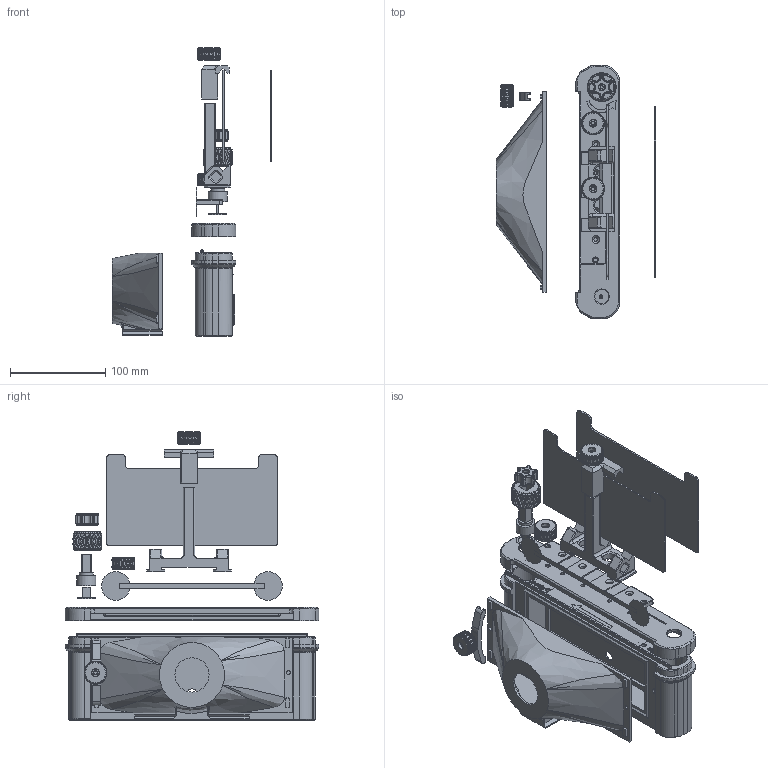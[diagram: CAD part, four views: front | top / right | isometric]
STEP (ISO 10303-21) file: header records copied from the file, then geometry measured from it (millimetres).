
FILE_DESCRIPTION(/* description */ (''),/* implementation_level */ '2;1');
FILE_NAME(/* name */ 'C:/Users/mcjor/Documents/3D objects/6x17 Camera/6x17/v8/v8.stp',/* time_stamp */ '2024-03-17T22:56:21+01:00',/* author */ (''),/* organization */ (''),/* preprocessor_version */ 'ST-DEVELOPER v15.2',/* originating_system */ 'Autodesk Translator Framework v2.0.0.5431',/* authorisation */ '');
FILE_SCHEMA (('AUTOMOTIVE_DESIGN { 1 0 10303 214 3 1 1 }'));
Products named in the file (1): v8
Bounding box: 168.06 x 267 x 303.05 mm (x, y, z)
Volume: 674519.3 mm3; surface area: 335030 mm2
Topology: 17 solids, 18 shells, 3132 faces, 7683 edges, 4671 vertices
Faces by surface type: plane 1883, cylinder 517, torus 344, bspline 260, cone 121, sphere 7
Full cylindrical faces by diameter (mm): 0.039 x1, 1 x28, 3.4 x1, 3.5 x3, 3.6 x2, 3.9 x8, 4 x6, 4.039 x6, 4.6 x3, 6.4 x1, 7.7 x3, 10 x1, 14 x3, 14.5 x1, 15 x2, 15.1 x1, 19.2 x1, 20 x1, 21.2 x2, 27.15 x2, 36 x1
Entity records: 96875 total; most frequent: CARTESIAN_POINT 27620, ORIENTED_EDGE 15048, DIRECTION 13418, EDGE_CURVE 7524, AXIS2_PLACEMENT_3D 4904, VERTEX_POINT 4647, LINE 3610, VECTOR 3610
